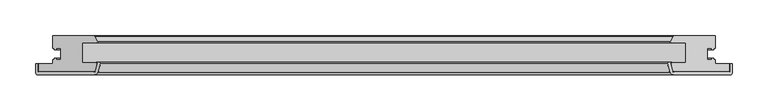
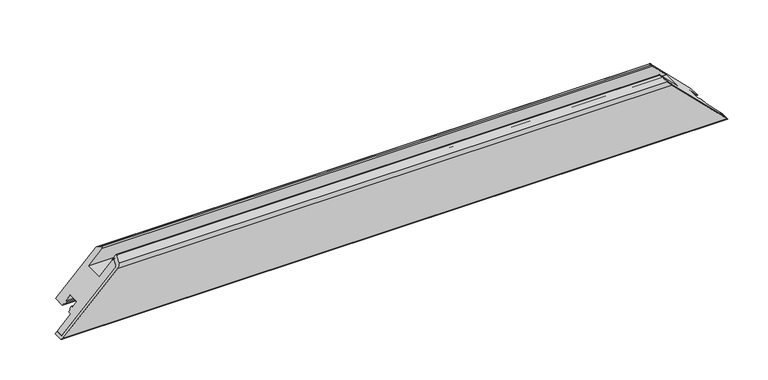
"""IFC4 building model written with IfcOpenShell, lengths in millimetres: proxy geometry, Weiku - Montante - Folha 02.2.01.018 : Weiku - Montante - Folha 02.2.01.018."""

from ifc_helpers import new_model, si_unit, frame, origin, place, context, project, spatial, polyline, ellipse_curve, source, transform, mapped, element, save
from ifc_brep_helpers import plane_surface, cylinder_surface, revolved_surface, advanced_brep


def generic_models_2e290007(model_context):
    return source(origin(), model_context, "Body", "AdvancedBrep", [
        advanced_brep(
        [(480.6, -50.0, 0.0), (-480.6, -50.0, 0.0), (-403.5997332, -50.0, 77.0002668), (403.5997332, -50.0, 77.0002668), (-400.7019557, -47.7764571, 79.8980443), (400.7019557, -47.7764571, 79.8980443), (-398.1170371, -38.1294095, 82.4829629), (398.1170371, -38.1294095, 82.4829629), (-398.6, -37.5, 82.0), (398.6, -37.5, 82.0), (-399.4560102, -37.5, 81.1439898), (399.4560102, -37.5, 81.1439898), (-399.4560102, -36.5, 81.1439898), (399.4560102, -36.5, 81.1439898), (-394.8425588, -36.5, 85.7574412), (394.8425588, -36.5, 85.7574412), (-393.8766329, -37.758819, 86.7233671), (393.8766329, -37.758819, 86.7233671), (-397.2354501, -50.2940952, 83.3645499), (397.2354501, -50.2940952, 83.3645499), (-402.0650792, -54.0, 78.5349208), (402.0650792, -54.0, 78.5349208), (-481.6, -54.0, -1.0), (481.6, -54.0, -1.0), (-483.6, -52.0, -3.0), (483.6, -52.0, -3.0), (-483.6, -38.5, -3.0), (483.6, -38.5, -3.0), (-480.6, -38.5, 0.0), (480.6, -38.5, 0.0)],
        [
            (0, 1),
            (1, 2),
            (2, 3),
            (3, 0),
            (2, 4, ellipse_curve(frame((-403.5997332, -47.0, 77.0002668), z_axis=(-0.7071067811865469, 0.0, 0.7071067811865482), x_axis=(0.707106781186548, 0.0, 0.7071067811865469)), 4.2426407, 3.0)),
            (4, 5),
            (5, 3, ellipse_curve(frame((403.5997332, -47.0, 77.0002668), z_axis=(0.707106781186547, 0.0, 0.7071067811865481), x_axis=(0.7071067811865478, 0.0, -0.707106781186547)), 4.2426407, 3.0)),
            (4, 6),
            (6, 7),
            (7, 5),
            (6, 8, ellipse_curve(frame((-398.6, -38.0, 82.0), z_axis=(-0.7071067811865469, 0.0, 0.7071067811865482), x_axis=(0.707106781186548, 0.0, 0.7071067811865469)), 0.7071068, 0.5)),
            (8, 9),
            (9, 7, ellipse_curve(frame((398.6, -38.0, 82.0), z_axis=(0.707106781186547, 0.0, 0.7071067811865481), x_axis=(0.7071067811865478, 0.0, -0.707106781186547)), 0.7071068, 0.5)),
            (8, 10),
            (10, 11),
            (11, 9),
            (10, 12, ellipse_curve(frame((-399.4560102, -37.0, 81.1439898), z_axis=(0.7071067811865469, 0.0, -0.7071067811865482), x_axis=(-0.707106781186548, 0.0, -0.7071067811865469)), 0.7071068, 0.5)),
            (12, 13),
            (13, 11, ellipse_curve(frame((399.4560102, -37.0, 81.1439898), z_axis=(-0.707106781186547, 0.0, -0.7071067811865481), x_axis=(-0.7071067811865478, 0.0, 0.707106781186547)), 0.7071068, 0.5)),
            (12, 14),
            (14, 15),
            (15, 13),
            (14, 16, ellipse_curve(frame((-394.8425588, -37.5, 85.7574412), z_axis=(0.7071067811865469, 0.0, -0.7071067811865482), x_axis=(-0.707106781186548, 0.0, -0.7071067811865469)), 1.4142136, 1.0)),
            (16, 17),
            (17, 15, ellipse_curve(frame((394.8425588, -37.5, 85.7574412), z_axis=(-0.707106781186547, 0.0, -0.7071067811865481), x_axis=(-0.7071067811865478, 0.0, 0.707106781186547)), 1.4142136, 1.0)),
            (16, 18),
            (18, 19),
            (19, 17),
            (18, 20, ellipse_curve(frame((-402.0650792, -49.0, 78.5349208), z_axis=(0.7071067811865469, 0.0, -0.7071067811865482), x_axis=(-0.707106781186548, 0.0, -0.7071067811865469)), 7.0710678, 5.0)),
            (20, 21),
            (21, 19, ellipse_curve(frame((402.0650792, -49.0, 78.5349208), z_axis=(-0.707106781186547, 0.0, -0.7071067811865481), x_axis=(-0.7071067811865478, 0.0, 0.707106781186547)), 7.0710678, 5.0)),
            (20, 22),
            (22, 23),
            (23, 21),
            (22, 24, ellipse_curve(frame((-481.6, -52.0, -1.0), z_axis=(0.7071067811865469, 0.0, -0.7071067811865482), x_axis=(-0.707106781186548, 0.0, -0.7071067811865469)), 2.8284271, 2.0)),
            (24, 25),
            (25, 23, ellipse_curve(frame((481.6, -52.0, -1.0), z_axis=(-0.707106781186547, 0.0, -0.7071067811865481), x_axis=(-0.7071067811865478, 0.0, 0.707106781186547)), 2.8284271, 2.0)),
            (24, 26),
            (26, 27),
            (27, 25),
            (26, 28),
            (28, 29),
            (29, 27),
            (28, 1),
            (0, 29),
        ],
        [
            plane_surface(frame((-500.6, -50.0, 0.0), z_axis=(0.0, 1.0, 0.0), x_axis=(1.0, 0.0, 0.0))),
            revolved_surface(polyline([(406.5997332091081, -50.0, 77.0002668), (-406.5997332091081, -50.0, 77.0002668)]), (-500.6, -47.0, 77.0002668), (1.0, 0.0, 0.0)),
            plane_surface(frame((-500.6, -47.7764571, 79.8980443), z_axis=(0.0, 0.2588190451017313, -0.9659258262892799), x_axis=(1.0, 0.0, 0.0))),
            revolved_surface(polyline([(399.1000000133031, -38.5, 82.0), (-399.10000001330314, -38.5, 82.0)]), (-500.6, -38.0, 82.0), (1.0, 0.0, 0.0)),
            plane_surface(frame((-500.6, -37.5, 82.0), z_axis=(0.0, -1.0, 0.0), x_axis=(1.0, 0.0, 0.0))),
            cylinder_surface(frame((-500.6, -37.0, 81.1439898), z_axis=(-1.0, 0.0, 0.0), x_axis=(0.0, -1.0, 0.0)), 0.5),
            plane_surface(frame((-500.6, -36.5, 81.1439898), z_axis=(0.0, 1.0, 0.0), x_axis=(1.0, 0.0, 0.0))),
            cylinder_surface(frame((-500.6, -37.5, 85.7574412), z_axis=(-1.0, 0.0, 0.0), x_axis=(0.0, -1.0, 0.0)), 1.0),
            plane_surface(frame((-500.6, -37.758819, 86.7233671), z_axis=(0.0, -0.25881904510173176, 0.9659258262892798), x_axis=(1.0, 0.0, 0.0))),
            cylinder_surface(frame((-500.6, -49.0, 78.5349208), z_axis=(-1.0, 0.0, 0.0), x_axis=(0.0, -1.0, 0.0)), 5.0),
            plane_surface(frame((-500.6, -54.0, 78.5349208), z_axis=(0.0, -1.0, 0.0), x_axis=(1.0, 0.0, 0.0))),
            cylinder_surface(frame((-500.6, -52.0, -1.0), z_axis=(-1.0, 0.0, 0.0), x_axis=(0.0, -1.0, 0.0)), 2.0),
            plane_surface(frame((-500.6, -52.0, -3.0), z_axis=(0.0, 0.0, -1.0), x_axis=(1.0, 0.0, 0.0))),
            plane_surface(frame((-500.6, -38.5, -3.0), z_axis=(0.0, 1.0, 0.0), x_axis=(1.0, 0.0, 0.0))),
            plane_surface(frame((-500.6, -38.5, 0.0), z_axis=(0.0, 0.0, 1.0), x_axis=(1.0, 0.0, 0.0))),
            plane_surface(frame((390.6, 0.0, 90.0), z_axis=(0.707106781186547, 0.0, 0.7071067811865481), x_axis=(0.0, -1.0, 0.0))),
            plane_surface(frame((-508.8842712, 0.0, -28.2842712), z_axis=(-0.7071067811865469, 0.0, 0.7071067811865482), x_axis=(0.0, -1.0, 0.0))),
        ],
        [
            (0, [[1, 2, 3, 4]]),
            (1, [[-3, 5, 6, 7]]),
            (2, [[-6, 8, 9, 10]]),
            (3, [[-9, 11, 12, 13]]),
            (4, [[-12, 14, 15, 16]]),
            (5, [[-15, 17, 18, 19]]),
            (6, [[-18, 20, 21, 22]]),
            (7, [[-21, 23, 24, 25]]),
            (8, [[-24, 26, 27, 28]]),
            (9, [[-27, 29, 30, 31]]),
            (10, [[-30, 32, 33, 34]]),
            (11, [[-33, 35, 36, 37]]),
            (12, [[-36, 38, 39, 40]]),
            (13, [[-39, 41, 42, 43]]),
            (14, [[-42, 44, -1, 45]]),
            (15, [[-7, -10, -13, -16, -19, -22, -25, -28, -31, -34, -37, -40, -43, -45, -4]]),
            (16, [[-44, -41, -38, -35, -32, -29, -26, -23, -20, -17, -14, -11, -8, -5, -2]]),
        ],
    ),
        advanced_brep(
        [(480.6, -50.0, 0.0), (403.5997332, -50.0, 77.0002668), (-403.5997332, -50.0, 77.0002668), (-480.6, -50.0, 0.0), (-480.6, -38.5, 0.0), (480.6, -38.5, 0.0), (-402.5872264, 0.0, 78.0127736), (402.5872264, 0.0, 78.0127736), (460.6, 0.0, 20.0), (-460.6, 0.0, 20.0), (-400.7019557, -47.7764571, 79.8980443), (-398.1170371, -38.1294095, 82.4829629), (-398.6, -37.5, 82.0), (-419.1, -37.5, 61.5), (-419.1, -9.5, 61.5), (-399.3134285, -9.5, 81.2865715), (-398.1512796, -7.617411, 82.4487204), (-401.6932657, -0.5518546, 78.9067343), (-460.6, -16.9, 20.0), (-458.4, -16.9, 22.2), (-458.4, -18.9, 22.2), (-455.6, -18.9, 25.0), (-455.6, -16.9, 25.0), (-449.1, -16.9, 31.5), (-449.1, -33.1, 31.5), (-455.6, -33.1, 25.0), (-455.6, -31.1, 25.0), (-458.4, -31.1, 22.2), (-458.4, -33.1, 22.2), (-460.6, -33.1, 20.0), (-460.6, -38.5, 20.0), (460.6, -38.5, 20.0), (460.6, -33.1, 20.0), (458.4, -33.1, 22.2), (458.4, -31.1, 22.2), (455.6, -31.1, 25.0), (455.6, -33.1, 25.0), (449.1, -33.1, 31.5), (449.1, -16.9, 31.5), (455.6, -16.9, 25.0), (455.6, -18.9, 25.0), (458.4, -18.9, 22.2), (458.4, -16.9, 22.2), (460.6, -16.9, 20.0), (401.6932657, -0.5518546, 78.9067343), (398.1512796, -7.617411, 82.4487204), (399.3134285, -9.5, 81.2865715), (419.1, -9.5, 61.5), (419.1, -37.5, 61.5), (398.6, -37.5, 82.0), (398.1170371, -38.1294095, 82.4829629), (400.7019557, -47.7764571, 79.8980443)],
        [
            (0, 1),
            (1, 2),
            (2, 3),
            (3, 0),
            (3, 4),
            (4, 5),
            (5, 0),
            (6, 7),
            (7, 8),
            (8, 9),
            (9, 6),
            (2, 10, ellipse_curve(frame((-403.5997332, -47.0, 77.0002668), z_axis=(-0.7071067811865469, 0.0, 0.7071067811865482), x_axis=(-0.707106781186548, 0.0, -0.7071067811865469)), 4.2426407, 3.0)),
            (10, 11),
            (11, 12, ellipse_curve(frame((-398.6, -38.0, 82.0), z_axis=(-0.7071067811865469, 0.0, 0.7071067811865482), x_axis=(-0.707106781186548, 0.0, -0.7071067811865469)), 0.7071068, 0.5)),
            (12, 13),
            (13, 14),
            (14, 15),
            (15, 16, ellipse_curve(frame((-399.3134285, -8.2, 81.2865715), z_axis=(-0.7071067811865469, 0.0, 0.7071067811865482), x_axis=(-0.707106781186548, 0.0, -0.7071067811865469)), 1.8384776, 1.3)),
            (16, 17),
            (17, 6, ellipse_curve(frame((-402.5872264, -1.0, 78.0127736), z_axis=(-0.7071067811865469, 0.0, 0.7071067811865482), x_axis=(-0.707106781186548, 0.0, -0.7071067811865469)), 1.4142136, 1.0)),
            (9, 18),
            (18, 19),
            (19, 20),
            (20, 21),
            (21, 22),
            (22, 23),
            (23, 24),
            (24, 25),
            (25, 26),
            (26, 27),
            (27, 28),
            (28, 29),
            (29, 30),
            (30, 4),
            (5, 31),
            (31, 32),
            (32, 33),
            (33, 34),
            (34, 35),
            (35, 36),
            (36, 37),
            (37, 38),
            (38, 39),
            (39, 40),
            (40, 41),
            (41, 42),
            (42, 43),
            (43, 8),
            (7, 44, ellipse_curve(frame((402.5872264, -1.0, 78.0127736), z_axis=(0.707106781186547, 0.0, 0.7071067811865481), x_axis=(-0.7071067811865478, 0.0, 0.707106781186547)), 1.4142136, 1.0)),
            (44, 45),
            (45, 46, ellipse_curve(frame((399.3134285, -8.2, 81.2865715), z_axis=(0.707106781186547, 0.0, 0.7071067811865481), x_axis=(-0.7071067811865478, 0.0, 0.707106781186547)), 1.8384776, 1.3)),
            (46, 47),
            (47, 48),
            (48, 49),
            (49, 50, ellipse_curve(frame((398.6, -38.0, 82.0), z_axis=(0.707106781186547, 0.0, 0.7071067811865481), x_axis=(-0.7071067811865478, 0.0, 0.707106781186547)), 0.7071068, 0.5)),
            (50, 51),
            (51, 1, ellipse_curve(frame((403.5997332, -47.0, 77.0002668), z_axis=(0.707106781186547, 0.0, 0.7071067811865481), x_axis=(-0.7071067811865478, 0.0, 0.707106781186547)), 4.2426407, 3.0)),
            (17, 44),
            (16, 45),
            (15, 46),
            (14, 47),
            (13, 48),
            (12, 49),
            (11, 50),
            (10, 51),
            (30, 31),
            (29, 32),
            (28, 33),
            (27, 34),
            (26, 35),
            (25, 36),
            (24, 37),
            (23, 38),
            (22, 39),
            (21, 40),
            (20, 41),
            (19, 42),
            (18, 43),
        ],
        [
            plane_surface(frame((-480.6, -50.0, 77.0002668), z_axis=(0.0, -1.0, 0.0), x_axis=(1.0, 0.0, 0.0))),
            plane_surface(frame((-480.6, -50.0, 0.0), z_axis=(0.0, 0.0, -1.0), x_axis=(1.0, 0.0, 0.0))),
            plane_surface(frame((-480.6, 0.0, 20.0), z_axis=(0.0, 1.0, 0.0), x_axis=(1.0, 0.0, 0.0))),
            plane_surface(frame((-508.8842712, 0.0, -28.2842712), z_axis=(-0.7071067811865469, 0.0, 0.7071067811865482), x_axis=(0.0, -1.0, 0.0))),
            plane_surface(frame((390.6, 0.0, 90.0), z_axis=(0.707106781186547, 0.0, 0.7071067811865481), x_axis=(0.0, -1.0, 0.0))),
            cylinder_surface(frame((-480.6, -1.0, 78.0127736), z_axis=(-1.0, 0.0, 0.0), x_axis=(0.0, -1.0, 0.0)), 1.0),
            plane_surface(frame((-480.6, -0.5518546, 78.9067343), z_axis=(0.0, 0.4481453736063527, 0.8939606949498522), x_axis=(1.0, 0.0, 0.0))),
            cylinder_surface(frame((-480.6, -8.2, 81.2865715), z_axis=(-1.0, 0.0, 0.0), x_axis=(0.0, -1.0, 0.0)), 1.3),
            plane_surface(frame((-480.6, -9.5, 81.2865715), z_axis=(0.0, -1.0, 0.0), x_axis=(1.0, 0.0, 0.0))),
            plane_surface(frame((-480.6, -9.5, 61.5), z_axis=(0.0, 0.0, 1.0), x_axis=(1.0, 0.0, 0.0))),
            plane_surface(frame((-480.6, -37.5, 61.5), z_axis=(0.0, 1.0, 0.0), x_axis=(1.0, 0.0, 0.0))),
            cylinder_surface(frame((-480.6, -38.0, 82.0), z_axis=(-1.0, 0.0, 0.0), x_axis=(0.0, -1.0, 0.0)), 0.5),
            plane_surface(frame((-480.6, -38.1294095, 82.4829629), z_axis=(0.0, -0.2588190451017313, 0.9659258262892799), x_axis=(1.0, 0.0, 0.0))),
            cylinder_surface(frame((-480.6, -47.0, 77.0002668), z_axis=(-1.0, 0.0, 0.0), x_axis=(0.0, -1.0, 0.0)), 3.0),
            plane_surface(frame((-480.6, -38.5, 0.0), z_axis=(0.0, 1.0, 0.0), x_axis=(1.0, 0.0, 0.0))),
            plane_surface(frame((-480.6, -38.5, 20.0), z_axis=(0.0, 0.0, -1.0), x_axis=(1.0, 0.0, 0.0))),
            plane_surface(frame((-480.6, -33.1, 20.0), z_axis=(0.0, 1.0, 0.0), x_axis=(1.0, 0.0, 0.0))),
            plane_surface(frame((-480.6, -33.1, 22.2), z_axis=(0.0, 0.0, -1.0), x_axis=(1.0, 0.0, 0.0))),
            plane_surface(frame((-480.6, -31.1, 22.2), z_axis=(0.0, 1.0, 0.0), x_axis=(1.0, 0.0, 0.0))),
            plane_surface(frame((-480.6, -31.1, 25.0), z_axis=(0.0, 0.0, 1.0), x_axis=(1.0, 0.0, 0.0))),
            plane_surface(frame((-480.6, -33.1, 25.0), z_axis=(0.0, 1.0, 0.0), x_axis=(1.0, 0.0, 0.0))),
            plane_surface(frame((-480.6, -33.1, 31.5), z_axis=(0.0, 0.0, -1.0), x_axis=(1.0, 0.0, 0.0))),
            plane_surface(frame((-480.6, -16.9, 31.5), z_axis=(0.0, -1.0, 0.0), x_axis=(1.0, 0.0, 0.0))),
            plane_surface(frame((-480.6, -16.9, 25.0), z_axis=(0.0, 0.0, 1.0), x_axis=(1.0, 0.0, 0.0))),
            plane_surface(frame((-480.6, -18.9, 25.0), z_axis=(0.0, -1.0, 0.0), x_axis=(1.0, 0.0, 0.0))),
            plane_surface(frame((-480.6, -18.9, 22.2), z_axis=(0.0, 0.0, -1.0), x_axis=(1.0, 0.0, 0.0))),
            plane_surface(frame((-480.6, -16.9, 22.2), z_axis=(0.0, -1.0, 0.0), x_axis=(1.0, 0.0, 0.0))),
            plane_surface(frame((-480.6, -16.9, 20.0), z_axis=(0.0, 0.0, -1.0), x_axis=(1.0, 0.0, 0.0))),
        ],
        [
            (0, [[1, 2, 3, 4]]),
            (1, [[5, 6, 7, -4]]),
            (2, [[8, 9, 10, 11]]),
            (3, [[12, 13, 14, 15, 16, 17, 18, 19, 20, -11, 21, 22, 23, 24, 25, 26, 27, 28, 29, 30, 31, 32, 33, 34, -5, -3]]),
            (4, [[-7, 35, 36, 37, 38, 39, 40, 41, 42, 43, 44, 45, 46, 47, 48, -9, 49, 50, 51, 52, 53, 54, 55, 56, 57, -1]]),
            (5, [[58, -49, -8, -20]]),
            (6, [[59, -50, -58, -19]]),
            (7, [[60, -51, -59, -18]]),
            (8, [[61, -52, -60, -17]]),
            (9, [[62, -53, -61, -16]]),
            (10, [[63, -54, -62, -15]]),
            (11, [[64, -55, -63, -14]]),
            (12, [[65, -56, -64, -13]]),
            (13, [[-2, -57, -65, -12]]),
            (14, [[-34, 66, -35, -6]]),
            (15, [[67, -36, -66, -33]]),
            (16, [[68, -37, -67, -32]]),
            (17, [[69, -38, -68, -31]]),
            (18, [[70, -39, -69, -30]]),
            (19, [[71, -40, -70, -29]]),
            (20, [[72, -41, -71, -28]]),
            (21, [[73, -42, -72, -27]]),
            (22, [[74, -43, -73, -26]]),
            (23, [[75, -44, -74, -25]]),
            (24, [[76, -45, -75, -24]]),
            (25, [[77, -46, -76, -23]]),
            (26, [[78, -47, -77, -22]]),
            (27, [[-10, -48, -78, -21]]),
        ],
    ),
    ])


if __name__ == "__main__":
    model = new_model("IFC4")
    model_context = context("Model", 3, world=origin())
    ifc_project = project(units=[si_unit("LENGTHUNIT", "METRE", prefix="MILLI")], contexts=[model_context])
    site = spatial("IfcSite", under=ifc_project)
    building = spatial("IfcBuilding", under=site)
    placement = place(None, origin())
    generic_models_shape = generic_models_2e290007(model_context)
    element("IfcBuildingElementProxy", 1, Name="Weiku - Montante - Folha 02.2.01.018 : Weiku - Montante - Folha 02.2.01.018", ObjectType="Weiku - Montante - Folha 02.2.01.018 : Weiku - Montante - Folha 02.2.01.018", at=placement, inside=building, context=model_context, shape_type="MappedRepresentation", body=[
        mapped(generic_models_shape, transform((0.0, 0.0, 0.0), x_axis=(1.0, 0.0, 0.0), y_axis=(0.0, 1.0, 0.0), z_axis=(0.0, 0.0, 1.0))),
    ])
    save(model, "model.ifc")
